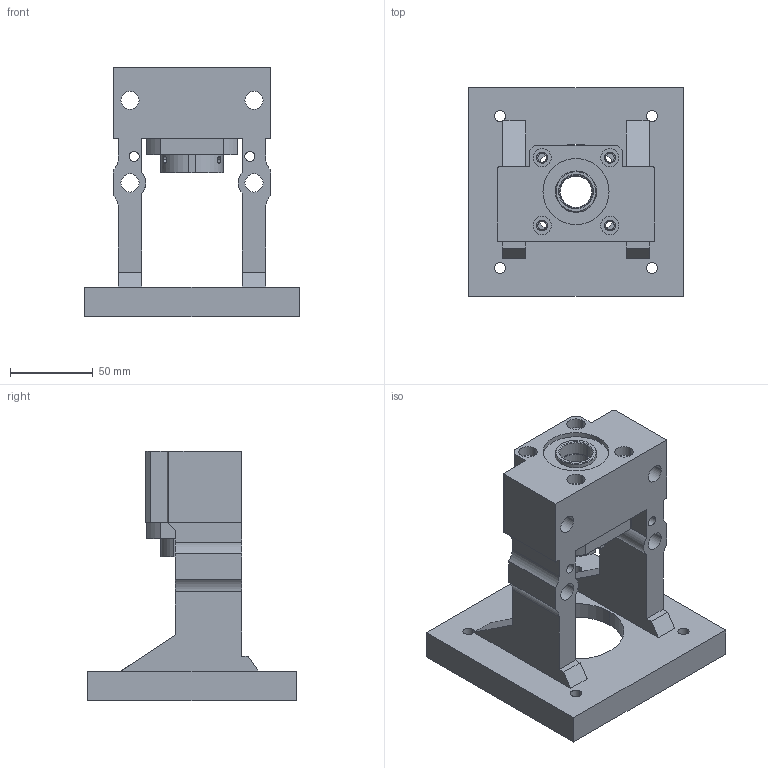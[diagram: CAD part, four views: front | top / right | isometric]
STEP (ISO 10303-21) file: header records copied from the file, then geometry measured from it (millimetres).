
FILE_DESCRIPTION((''),'2;1');
FILE_NAME('M116S-AK20-C_ASM','2019-12-30T',('ASUS'),(''),'PRO/ENGINEER BY PARAMETRIC TECHNOLOGY CORPORATION, 2010280','PRO/ENGINEER BY PARAMETRIC TECHNOLOGY CORPORATION, 2010280','');
FILE_SCHEMA(('CONFIG_CONTROL_DESIGN'));
Length unit declared in the file: millimetre
Products named in the file (6): MBCS20-X-02; MBCF20-X-02; NF_M20X1; _MBCS20-S; M116S_ASM; M116S-AK20-C_ASM
Assembly tree (6 placements, depth 3):
  M116S-AK20-C_ASM
    M116S_ASM
      MBCS20-X-02  x2
      MBCF20-X-02
      NF_M20X1
      _MBCS20-S
Bounding box: 130 x 126 x 151 mm (x, y, z)
Volume: 509908.3 mm3; surface area: 113766.9 mm2
Topology: 5 solids, 5 shells, 195 faces, 526 edges, 353 vertices
Faces by surface type: cylinder 103, plane 76, cone 16
Entity records: 6334 total; most frequent: CARTESIAN_POINT 1231, DIRECTION 1105, ORIENTED_EDGE 996, EDGE_CURVE 498, AXIS2_PLACEMENT_3D 423, VERTEX_POINT 337, VECTOR 259, LINE 259
